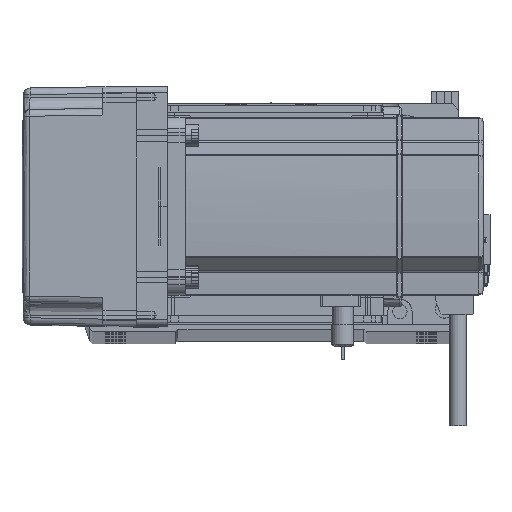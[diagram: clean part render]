
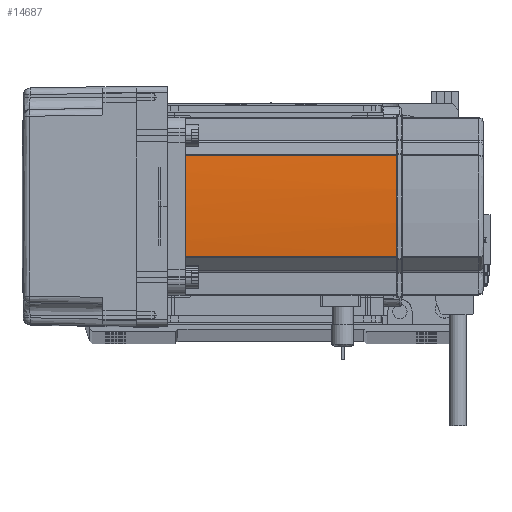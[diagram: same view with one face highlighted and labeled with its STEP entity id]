
A CAD part, top view. The second image highlights one B-rep face of the part: STEP entity #14687.
In plain terms, the highlighted cylindrical face has radius 270 mm (diameter 540 mm), a partial arc.
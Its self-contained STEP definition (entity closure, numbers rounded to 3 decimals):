
#604 = B_SPLINE_CURVE_WITH_KNOTS ( 'NONE', 3,
 ( #4320, #56725, #65938, #20930 ),
 .UNSPECIFIED., .F., .F.,
 ( 4, 4 ),
 ( 0., 1. ),
 .UNSPECIFIED. ) ;
#811 = DIRECTION ( 'NONE',  ( 0., 0., -1. ) ) ;
#1248 = CARTESIAN_POINT ( 'NONE',  ( -230., 0., 58. ) ) ;
#2612 = DIRECTION ( 'NONE',  ( 0., 0., -1. ) ) ;
#2818 = AXIS2_PLACEMENT_3D ( 'NONE', #28480, #2612, #49397 ) ;
#2862 = AXIS2_PLACEMENT_3D ( 'NONE', #22902, #47956, #17084 ) ;
#3416 = CARTESIAN_POINT ( 'NONE',  ( 40., 0.127, 134. ) ) ;
#4320 = CARTESIAN_POINT ( 'NONE',  ( 40., -0.127, 134. ) ) ;
#4831 = CARTESIAN_POINT ( 'NONE',  ( 39.042, 22.724, 58. ) ) ;
#5731 = DIRECTION ( 'NONE',  ( -1., 0., 0. ) ) ;
#6417 = DIRECTION ( 'NONE',  ( 0., 0., -1. ) ) ;
#6922 = AXIS2_PLACEMENT_3D ( 'NONE', #26626, #811, #5731 ) ;
#9025 = ORIENTED_EDGE ( 'NONE', *, *, #51106, .T. ) ;
#14226 = CIRCLE ( 'NONE', #2818, 270. ) ;
#14687 = ADVANCED_FACE ( 'NONE', ( #42672 ), #36233, .T. ) ;
#15467 = VERTEX_POINT ( 'NONE', #29894 ) ;
#15615 = VERTEX_POINT ( 'NONE', #3416 ) ;
#17084 = DIRECTION ( 'NONE',  ( -1., 0., 0. ) ) ;
#18352 = LINE ( 'NONE', #27157, #23171 ) ;
#18738 = VERTEX_POINT ( 'NONE', #63013 ) ;
#20930 = CARTESIAN_POINT ( 'NONE',  ( 40., 0.127, 134. ) ) ;
#21663 = DIRECTION ( 'NONE',  ( -1., 0., 0. ) ) ;
#22417 = DIRECTION ( 'NONE',  ( 0., 0., -1. ) ) ;
#22457 = EDGE_CURVE ( 'NONE', #33086, #45812, #50956, .T. ) ;
#22902 = CARTESIAN_POINT ( 'NONE',  ( -230., 0., 134. ) ) ;
#23171 = VECTOR ( 'NONE', #22417, 1000. ) ;
#23259 = EDGE_CURVE ( 'NONE', #18738, #15467, #41154, .T. ) ;
#26626 = CARTESIAN_POINT ( 'NONE',  ( -230., 0., 134. ) ) ;
#27076 = VERTEX_POINT ( 'NONE', #65893 ) ;
#27157 = CARTESIAN_POINT ( 'NONE',  ( 39.042, -22.724, 58. ) ) ;
#28480 = CARTESIAN_POINT ( 'NONE',  ( -230., 0., 39. ) ) ;
#29894 = CARTESIAN_POINT ( 'NONE',  ( 39.042, 22.724, 134. ) ) ;
#30928 = AXIS2_PLACEMENT_3D ( 'NONE', #1248, #6417, #21663 ) ;
#33086 = VERTEX_POINT ( 'NONE', #45278 ) ;
#33413 = ORIENTED_EDGE ( 'NONE', *, *, #62763, .T. ) ;
#34052 = ORIENTED_EDGE ( 'NONE', *, *, #51743, .F. ) ;
#35988 = ORIENTED_EDGE ( 'NONE', *, *, #52367, .F. ) ;
#36233 = CYLINDRICAL_SURFACE ( 'NONE', #30928, 270. ) ;
#41154 = LINE ( 'NONE', #4831, #42794 ) ;
#42670 = CARTESIAN_POINT ( 'NONE',  ( 39.042, -22.724, 134. ) ) ;
#42672 = FACE_OUTER_BOUND ( 'NONE', #60734, .T. ) ;
#42794 = VECTOR ( 'NONE', #60424, 1000. ) ;
#44667 = CIRCLE ( 'NONE', #6922, 270. ) ;
#45278 = CARTESIAN_POINT ( 'NONE',  ( 40., -0.127, 134. ) ) ;
#45812 = VERTEX_POINT ( 'NONE', #42670 ) ;
#47956 = DIRECTION ( 'NONE',  ( 0., 0., -1. ) ) ;
#49397 = DIRECTION ( 'NONE',  ( -1., 0., 0. ) ) ;
#50956 = CIRCLE ( 'NONE', #2862, 270. ) ;
#51106 = EDGE_CURVE ( 'NONE', #45812, #27076, #18352, .T. ) ;
#51743 = EDGE_CURVE ( 'NONE', #18738, #27076, #14226, .T. ) ;
#52081 = ORIENTED_EDGE ( 'NONE', *, *, #22457, .T. ) ;
#52367 = EDGE_CURVE ( 'NONE', #33086, #15615, #604, .T. ) ;
#56725 = CARTESIAN_POINT ( 'NONE',  ( 40., -0.042, 134. ) ) ;
#60424 = DIRECTION ( 'NONE',  ( 0., 0., 1. ) ) ;
#60734 = EDGE_LOOP ( 'NONE', ( #9025, #34052, #63941, #33413, #35988, #52081 ) ) ;
#62763 = EDGE_CURVE ( 'NONE', #15467, #15615, #44667, .T. ) ;
#63013 = CARTESIAN_POINT ( 'NONE',  ( 39.042, 22.724, 39. ) ) ;
#63941 = ORIENTED_EDGE ( 'NONE', *, *, #23259, .T. ) ;
#65893 = CARTESIAN_POINT ( 'NONE',  ( 39.042, -22.724, 39. ) ) ;
#65938 = CARTESIAN_POINT ( 'NONE',  ( 40., 0.042, 134. ) ) ;
